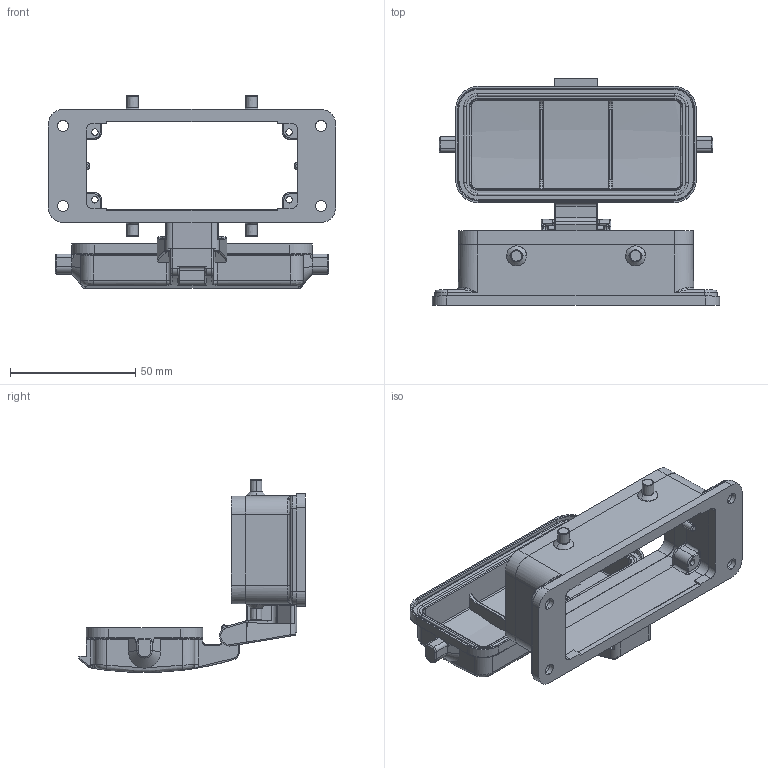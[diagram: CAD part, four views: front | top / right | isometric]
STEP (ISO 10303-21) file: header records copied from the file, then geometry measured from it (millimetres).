
FILE_DESCRIPTION (( 'STEP AP203' ), '1' );
FILE_NAME ('H16B-AD-BO.STEP', '2020-07-01T05:37:03', ( '' ), ( '' ), 'SwSTEP 2.0', 'SolidWorks 2016', '' );
FILE_SCHEMA (( 'CONFIG_CONTROL_DESIGN' ));
Length unit declared in the file: millimetre
Products named in the file (1): H16B-AD-BO
Bounding box: 114.6 x 90.4 x 76.9 mm (x, y, z)
Volume: 60701 mm3; surface area: 51102.9 mm2
Topology: 6 solids, 6 shells, 791 faces, 1983 edges, 1217 vertices
Faces by surface type: cylinder 274, plane 245, bspline 226, cone 46
Entity records: 32934 total; most frequent: CARTESIAN_POINT 15588, ORIENTED_EDGE 3954, DIRECTION 3147, EDGE_CURVE 1977, VERTEX_POINT 1217, AXIS2_PLACEMENT_3D 1096, VECTOR 955, LINE 955
